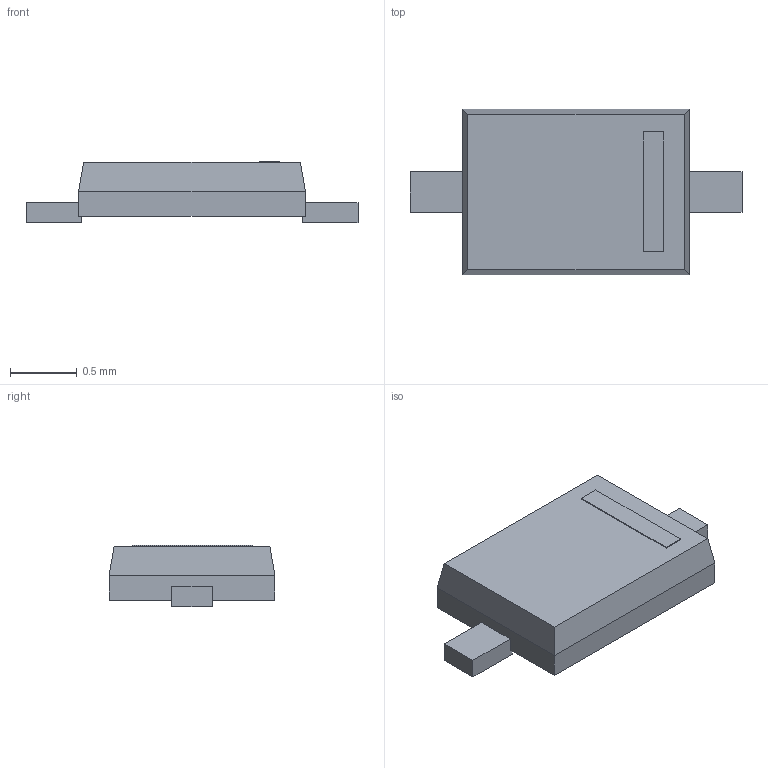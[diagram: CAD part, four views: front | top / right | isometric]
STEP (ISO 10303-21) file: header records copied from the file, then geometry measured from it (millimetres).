
FILE_DESCRIPTION(('STEP AP214'),'1');
FILE_NAME('SOD-323_1P7X1P25_ONS','2021-09-22T01:32:13',(''),(''),'','','');
FILE_SCHEMA(('AUTOMOTIVE_DESIGN'));
Length unit declared in the file: millimetre
Products named in the file (1): product
Bounding box: 2.49 x 1.24 x 0.46 mm (x, y, z)
Volume: 0.9 mm3; surface area: 7.6 mm2
Topology: 4 solids, 4 shells, 32 faces, 68 edges, 44 vertices
Faces by surface type: plane 32
Entity records: 849 total; most frequent: ORIENTED_EDGE 136, DIRECTION 134, CARTESIAN_POINT 77, EDGE_CURVE 68, LINE 68, VECTOR 68, VERTEX_POINT 44, AXIS2_PLACEMENT_3D 33
